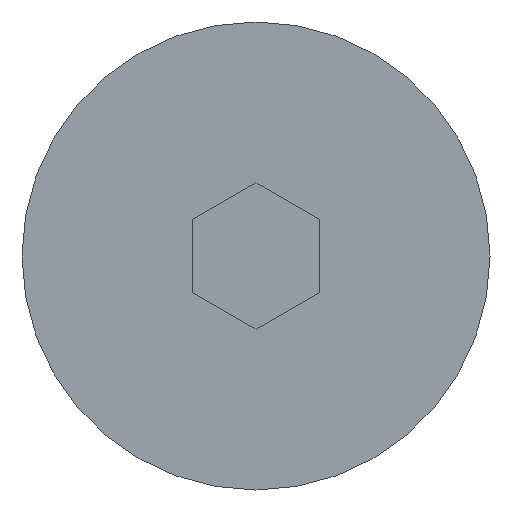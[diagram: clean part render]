
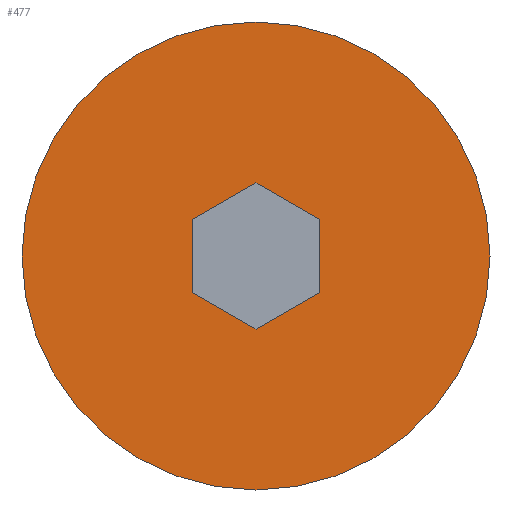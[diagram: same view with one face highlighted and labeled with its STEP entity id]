
A CAD part, left-side view. The second image highlights one B-rep face of the part: STEP entity #477.
In plain terms, the highlighted planar face has unit normal (-1, 0, 0).
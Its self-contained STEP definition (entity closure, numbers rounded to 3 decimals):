
#19 = DIRECTION ( 'NONE',  ( 0., 0., 1. ) ) ;
#23 = DIRECTION ( 'NONE',  ( 0., -0.866, 0.5 ) ) ;
#25 = VECTOR ( 'NONE', #411, 1000. ) ;
#30 = EDGE_CURVE ( 'NONE', #508, #201, #377, .T. ) ;
#32 = CARTESIAN_POINT ( 'NONE',  ( 0., 0., -2.5 ) ) ;
#36 = CARTESIAN_POINT ( 'NONE',  ( 0., 2.165, 1.25 ) ) ;
#38 = CARTESIAN_POINT ( 'NONE',  ( 0., 0., 0. ) ) ;
#71 = CARTESIAN_POINT ( 'NONE',  ( 0., 2.165, -1.25 ) ) ;
#72 = DIRECTION ( 'NONE',  ( 0., 0.866, 0.5 ) ) ;
#76 = CIRCLE ( 'NONE', #298, 8. ) ;
#89 = EDGE_CURVE ( 'NONE', #503, #351, #253, .T. ) ;
#104 = VERTEX_POINT ( 'NONE', #226 ) ;
#110 = DIRECTION ( 'NONE',  ( 0., 0., 1. ) ) ;
#113 = EDGE_CURVE ( 'NONE', #168, #320, #346, .T. ) ;
#127 = AXIS2_PLACEMENT_3D ( 'NONE', #38, #387, #164 ) ;
#140 = VERTEX_POINT ( 'NONE', #487 ) ;
#151 = CARTESIAN_POINT ( 'NONE',  ( 0., 0., 2.5 ) ) ;
#153 = CARTESIAN_POINT ( 'NONE',  ( 0., 0., -2.5 ) ) ;
#161 = VECTOR ( 'NONE', #72, 1000. ) ;
#164 = DIRECTION ( 'NONE',  ( 0., 0., -1. ) ) ;
#168 = VERTEX_POINT ( 'NONE', #71 ) ;
#169 = EDGE_CURVE ( 'NONE', #104, #508, #261, .T. ) ;
#187 = EDGE_CURVE ( 'NONE', #320, #140, #449, .T. ) ;
#195 = DIRECTION ( 'NONE',  ( 0., 0., 1. ) ) ;
#198 = VECTOR ( 'NONE', #200, 1000. ) ;
#200 = DIRECTION ( 'NONE',  ( 0., 0., -1. ) ) ;
#201 = VERTEX_POINT ( 'NONE', #314 ) ;
#213 = ORIENTED_EDGE ( 'NONE', *, *, #312, .T. ) ;
#215 = EDGE_CURVE ( 'NONE', #140, #104, #343, .T. ) ;
#221 = CARTESIAN_POINT ( 'NONE',  ( 0., 2.165, -1.25 ) ) ;
#226 = CARTESIAN_POINT ( 'NONE',  ( 0., -2.165, 1.25 ) ) ;
#230 = ORIENTED_EDGE ( 'NONE', *, *, #113, .F. ) ;
#247 = EDGE_LOOP ( 'NONE', ( #451, #427, #435, #328, #230, #442 ) ) ;
#252 = VECTOR ( 'NONE', #110, 1000. ) ;
#253 = CIRCLE ( 'NONE', #300, 8. ) ;
#255 = EDGE_CURVE ( 'NONE', #201, #168, #424, .T. ) ;
#261 = LINE ( 'NONE', #493, #161 ) ;
#262 = CARTESIAN_POINT ( 'NONE',  ( 0., 0., 0. ) ) ;
#272 = CARTESIAN_POINT ( 'NONE',  ( 0., -2.165, -1.25 ) ) ;
#279 = PLANE ( 'NONE',  #127 ) ;
#295 = FACE_OUTER_BOUND ( 'NONE', #353, .T. ) ;
#298 = AXIS2_PLACEMENT_3D ( 'NONE', #462, #504, #195 ) ;
#300 = AXIS2_PLACEMENT_3D ( 'NONE', #262, #413, #19 ) ;
#312 = EDGE_CURVE ( 'NONE', #351, #503, #76, .T. ) ;
#314 = CARTESIAN_POINT ( 'NONE',  ( 0., 2.165, 1.25 ) ) ;
#320 = VERTEX_POINT ( 'NONE', #32 ) ;
#328 = ORIENTED_EDGE ( 'NONE', *, *, #187, .F. ) ;
#343 = LINE ( 'NONE', #272, #252 ) ;
#346 = LINE ( 'NONE', #221, #25 ) ;
#351 = VERTEX_POINT ( 'NONE', #455 ) ;
#353 = EDGE_LOOP ( 'NONE', ( #398, #213 ) ) ;
#366 = VECTOR ( 'NONE', #23, 1000. ) ;
#377 = LINE ( 'NONE', #151, #389 ) ;
#387 = DIRECTION ( 'NONE',  ( 1., 0., 0. ) ) ;
#389 = VECTOR ( 'NONE', #491, 1000. ) ;
#398 = ORIENTED_EDGE ( 'NONE', *, *, #89, .T. ) ;
#411 = DIRECTION ( 'NONE',  ( 0., -0.866, -0.5 ) ) ;
#413 = DIRECTION ( 'NONE',  ( -1., 0., 0. ) ) ;
#424 = LINE ( 'NONE', #36, #198 ) ;
#425 = CARTESIAN_POINT ( 'NONE',  ( 0., 0., 8. ) ) ;
#427 = ORIENTED_EDGE ( 'NONE', *, *, #169, .F. ) ;
#435 = ORIENTED_EDGE ( 'NONE', *, *, #215, .F. ) ;
#442 = ORIENTED_EDGE ( 'NONE', *, *, #255, .F. ) ;
#449 = LINE ( 'NONE', #153, #366 ) ;
#451 = ORIENTED_EDGE ( 'NONE', *, *, #30, .F. ) ;
#455 = CARTESIAN_POINT ( 'NONE',  ( 0., 0., -8. ) ) ;
#462 = CARTESIAN_POINT ( 'NONE',  ( 0., 0., 0. ) ) ;
#477 = ADVANCED_FACE ( 'NONE', ( #481, #295 ), #279, .F. ) ;
#481 = FACE_BOUND ( 'NONE', #247, .T. ) ;
#487 = CARTESIAN_POINT ( 'NONE',  ( 0., -2.165, -1.25 ) ) ;
#491 = DIRECTION ( 'NONE',  ( 0., 0.866, -0.5 ) ) ;
#493 = CARTESIAN_POINT ( 'NONE',  ( 0., -2.165, 1.25 ) ) ;
#503 = VERTEX_POINT ( 'NONE', #425 ) ;
#504 = DIRECTION ( 'NONE',  ( -1., 0., 0. ) ) ;
#506 = CARTESIAN_POINT ( 'NONE',  ( 0., 0., 2.5 ) ) ;
#508 = VERTEX_POINT ( 'NONE', #506 ) ;
